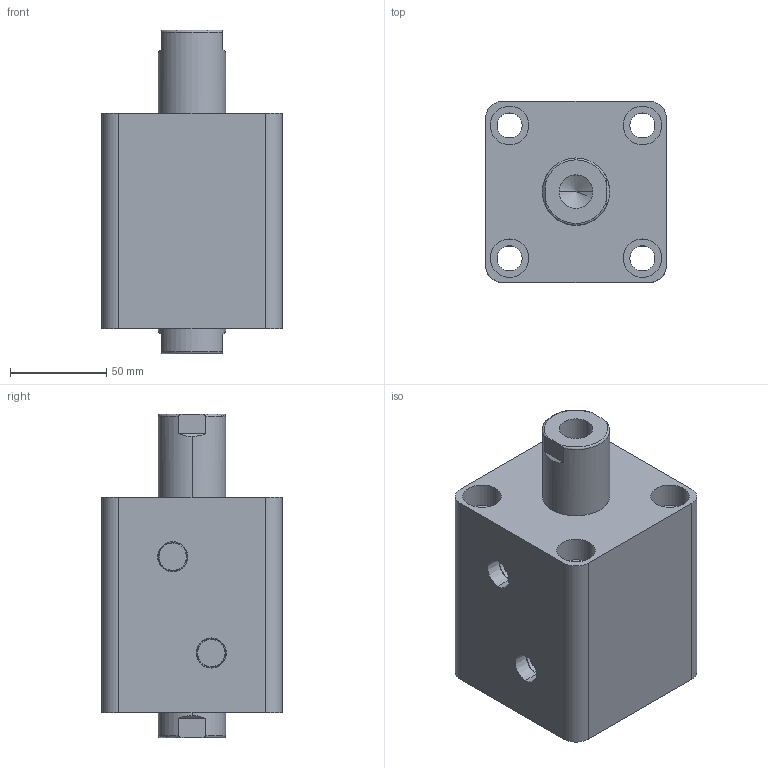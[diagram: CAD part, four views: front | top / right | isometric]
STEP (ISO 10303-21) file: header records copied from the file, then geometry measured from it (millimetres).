
FILE_DESCRIPTION (( 'STEP AP203' ), '1' );
FILE_NAME ('HTB-SW63-30N.STEP', '2019-10-07T10:03:29', ( '微软用户' ), ( '微软中国' ), 'SwSTEP 2.0', 'SolidWorks 2012', '' );
FILE_SCHEMA (( 'CONFIG_CONTROL_DESIGN' ));
Length unit declared in the file: millimetre
Products named in the file (3): HTB-SW63-30N; HTB-SW63-30N活塞杆; HTB-SW63-30掛极
Assembly tree (2 placements, depth 2):
  HTB-SW63-30N
    HTB-SW63-30掛极
    HTB-SW63-30N活塞杆
Bounding box: 94 x 94 x 168 mm (x, y, z)
Volume: 877930 mm3; surface area: 125849.1 mm2
Topology: 2 solids, 2 shells, 100 faces, 228 edges, 146 vertices
Faces by surface type: cylinder 48, plane 32, torus 12, cone 8
Entity records: 3253 total; most frequent: CARTESIAN_POINT 611, DIRECTION 542, ORIENTED_EDGE 448, AXIS2_PLACEMENT_3D 229, EDGE_CURVE 224, VERTEX_POINT 146, EDGE_LOOP 128, CIRCLE 124
